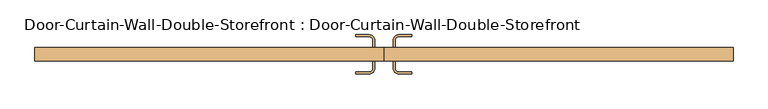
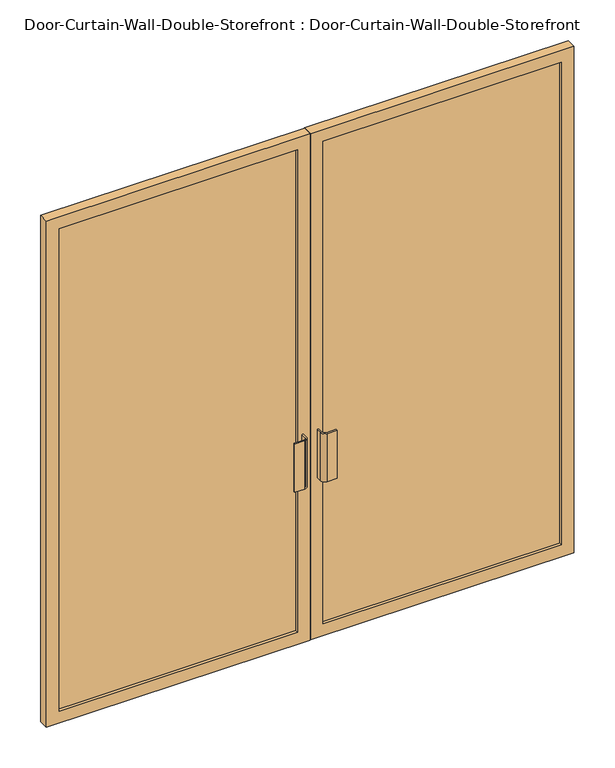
"""IFC4 building model written with IfcOpenShell, lengths in millimetres: door geometry, Door-Curtain-Wall-Double-Storefront : Door-Curtain-Wall-Double-Storefront."""

from ifc_helpers import new_model, si_unit, point, frame, frame_2d, origin, place, context, project, spatial, polyline, circle_curve, trimmed, segment, composite_curve, outline, extrude, source, transform, mapped, element, save


def door_curtain_wall_double_storefront_door_curtain_wall_double_41100a05(model_context):
    return source(origin(), model_context, "Body", "SweptSolid", [
        extrude(outline(polyline([(2406.65, 0.7668501), (0.0, 0.7668501), (0.0, 1187.45), (2406.65, 1187.45), (2406.65, 0.7668501)]), holes=[polyline([(2349.5, 57.9168501), (2349.5, 1130.3), (57.15, 1130.3), (57.15, 57.9168501), (2349.5, 57.9168501)])]), frame((0.0, 12.7, 0.0), z_axis=(0.0, 1.0, 0.0), x_axis=(0.0, 0.0, 1.0)), (0.0, 0.0, 1.0), 44.45),
        extrude(outline(polyline([(2406.65, -0.8206499), (2406.65, -1187.45), (0.0, -1187.45), (0.0, -0.8206499), (2406.65, -0.8206499)]), holes=[polyline([(2349.5, -1130.3), (2349.5, -57.9706499), (57.15, -57.9706499), (57.15, -1130.3), (2349.5, -1130.3)])]), frame((0.0, 12.7, 0.0), z_axis=(0.0, 1.0, 0.0), x_axis=(0.0, 0.0, 1.0)), (0.0, 0.0, 1.0), 44.45),
        extrude(outline(polyline([(1130.3, 25.4), (57.9168501, 25.4), (57.9168501, 44.45), (1130.3, 44.45), (1130.3, 25.4)])), frame((0.0, 0.0, 57.15), z_axis=(0.0, 0.0, 1.0), x_axis=(1.0, 0.0, 0.0)), (0.0, 0.0, 1.0), 2292.35),
        extrude(outline(polyline([(-57.9706499, 25.4), (-1130.3, 25.4), (-1130.3, 44.45), (-57.9706499, 44.45), (-57.9706499, 25.4)])), frame((0.0, 0.0, 57.15), z_axis=(0.0, 0.0, 1.0), x_axis=(1.0, 0.0, 0.0)), (0.0, 0.0, 1.0), 2292.35),
        extrude(outline(composite_curve([segment(polyline([(-31.7768999, 82.55), (-31.7768999, 57.15), (-38.1268999, 57.15), (-38.1268999, 82.55)]), True, "CONTINUOUS"), segment(trimmed(circle_curve(frame_2d((-50.8268999, 82.55)), 12.7), [point((-38.1268999, 82.55))], [point((-50.8268999, 95.25))], True, "CARTESIAN"), True, "CONTINUOUS"), segment(polyline([(-50.8268999, 95.25), (-95.2768999, 95.25), (-95.2768999, 101.6), (-50.8268999, 101.6)]), True, "CONTINUOUS"), segment(trimmed(circle_curve(frame_2d((-50.8268999, 82.55)), 19.05), [point((-50.8268999, 101.6))], [point((-31.7768999, 82.55))], False, "CARTESIAN"), True, "CONTINUOUS")], self_intersect=False)), frame((0.0, 0.0, 762.0), z_axis=(0.0, 0.0, 1.0), x_axis=(1.0, 0.0, 0.0)), (0.0, 0.0, 1.0), 228.6),
        extrude(outline(composite_curve([segment(trimmed(circle_curve(frame_2d((50.7731001, 82.55)), 19.05), [point((31.7231001, 82.55))], [point((50.7731001, 101.6))], False, "CARTESIAN"), True, "CONTINUOUS"), segment(polyline([(50.7731001, 101.6), (95.2231001, 101.6), (95.2231001, 95.25), (50.7731001, 95.25)]), True, "CONTINUOUS"), segment(trimmed(circle_curve(frame_2d((50.7731001, 82.55)), 12.7), [point((50.7731001, 95.25))], [point((38.0731001, 82.55))], True, "CARTESIAN"), True, "CONTINUOUS"), segment(polyline([(38.0731001, 82.55), (38.0731001, 57.15), (31.7231001, 57.15), (31.7231001, 82.55)]), True, "CONTINUOUS")], self_intersect=False)), frame((0.0, 0.0, 762.0), z_axis=(0.0, 0.0, 1.0), x_axis=(1.0, 0.0, 0.0)), (0.0, 0.0, 1.0), 228.6),
        extrude(outline(composite_curve([segment(trimmed(circle_curve(frame_2d((-50.8268999, -12.7)), 19.05), [point((-31.7768999, -12.7))], [point((-50.8268999, -31.75))], False, "CARTESIAN"), True, "CONTINUOUS"), segment(polyline([(-50.8268999, -31.75), (-95.2768999, -31.75), (-95.2768999, -25.4), (-50.8268999, -25.4)]), True, "CONTINUOUS"), segment(trimmed(circle_curve(frame_2d((-50.8268999, -12.7)), 12.7), [point((-50.8268999, -25.4))], [point((-38.1268999, -12.7))], True, "CARTESIAN"), True, "CONTINUOUS"), segment(polyline([(-38.1268999, -12.7), (-38.1268999, 12.7), (-31.7768999, 12.7), (-31.7768999, -12.7)]), True, "CONTINUOUS")], self_intersect=False)), frame((0.0, 0.0, 762.0), z_axis=(0.0, 0.0, 1.0), x_axis=(1.0, 0.0, 0.0)), (0.0, 0.0, 1.0), 228.6),
        extrude(outline(composite_curve([segment(polyline([(31.7231001, -12.7), (31.7231001, 12.7), (38.0731001, 12.7), (38.0731001, -12.7)]), True, "CONTINUOUS"), segment(trimmed(circle_curve(frame_2d((50.7731001, -12.7)), 12.7), [point((38.0731001, -12.7))], [point((50.7731001, -25.4))], True, "CARTESIAN"), True, "CONTINUOUS"), segment(polyline([(50.7731001, -25.4), (95.2231001, -25.4), (95.2231001, -31.75), (50.7731001, -31.75)]), True, "CONTINUOUS"), segment(trimmed(circle_curve(frame_2d((50.7731001, -12.7)), 19.05), [point((50.7731001, -31.75))], [point((31.7231001, -12.7))], False, "CARTESIAN"), True, "CONTINUOUS")], self_intersect=False)), frame((0.0, 0.0, 762.0), z_axis=(0.0, 0.0, 1.0), x_axis=(1.0, 0.0, 0.0)), (0.0, 0.0, 1.0), 228.6),
    ])


if __name__ == "__main__":
    model = new_model("IFC4")
    model_context = context("Model", 3, world=origin())
    ifc_project = project(units=[si_unit("LENGTHUNIT", "METRE", prefix="MILLI")], contexts=[model_context])
    site = spatial("IfcSite", under=ifc_project)
    building = spatial("IfcBuilding", under=site)
    placement = place(None, origin())
    door_curtain_wall_double_storefront_door_curtain_wall_double_shape = door_curtain_wall_double_storefront_door_curtain_wall_double_41100a05(model_context)
    element("IfcDoor", 1, ObjectType="Door-Curtain-Wall-Double-Storefront : Door-Curtain-Wall-Double-Storefront", at=placement, inside=building, context=model_context, shape_type="MappedRepresentation", body=[
        mapped(door_curtain_wall_double_storefront_door_curtain_wall_double_shape, transform((0.0, 0.0, 0.0), x_axis=(1.0, 0.0, 0.0), y_axis=(0.0, 1.0, 0.0), z_axis=(0.0, 0.0, 1.0))),
    ])
    save(model, "model.ifc")
